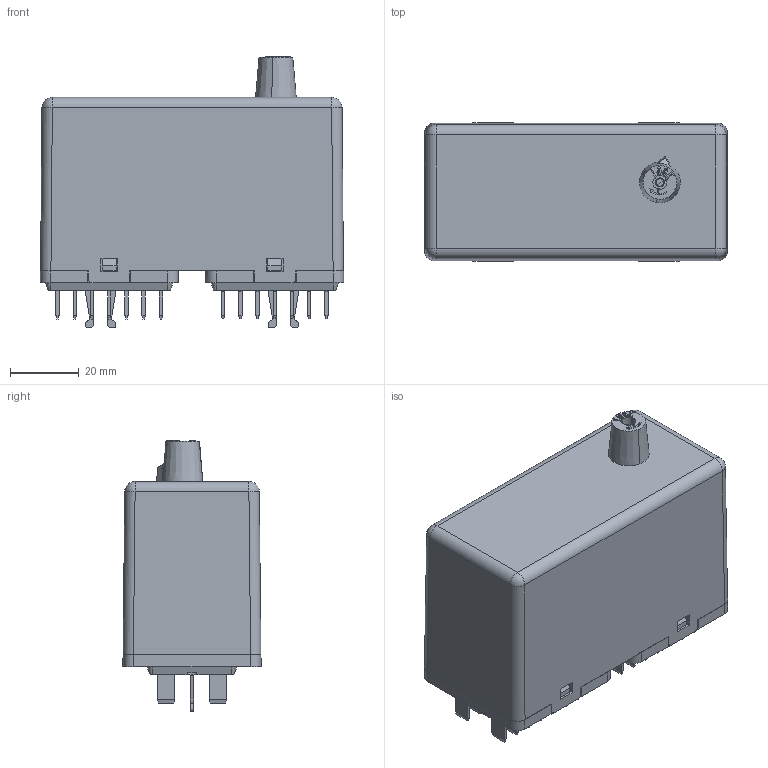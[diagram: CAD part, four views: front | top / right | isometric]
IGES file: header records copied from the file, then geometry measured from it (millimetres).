
Global section: file name: No Iges File Name specified; native system: Autodesk Inventor 2011; preprocessor: AutoDesk Inventor Iges Exporter R2011; author: oey; date: 20110309.081832; units: millimetre
Bounding box: 87.9 x 40.07 x 78.45 mm (x, y, z)
Volume: 49072.9 mm3; surface area: 57183.6 mm2
Topology: 1 solids, 1 shells, 2776 faces, 8137 edges, 5192 vertices
Faces by surface type: plane 1303, bspline 727, cylinder 335, revolution 324, sphere 68, cone 13, torus 6
